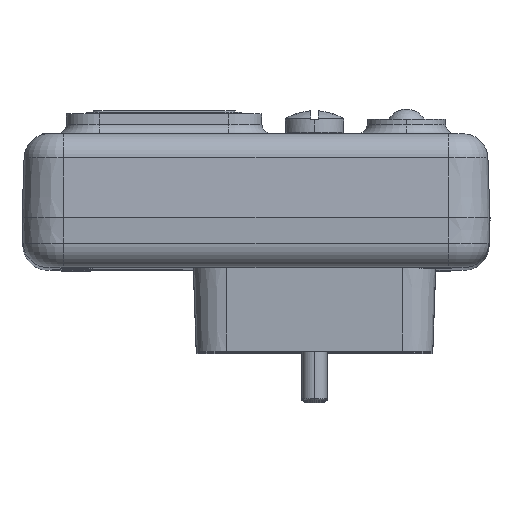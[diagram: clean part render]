
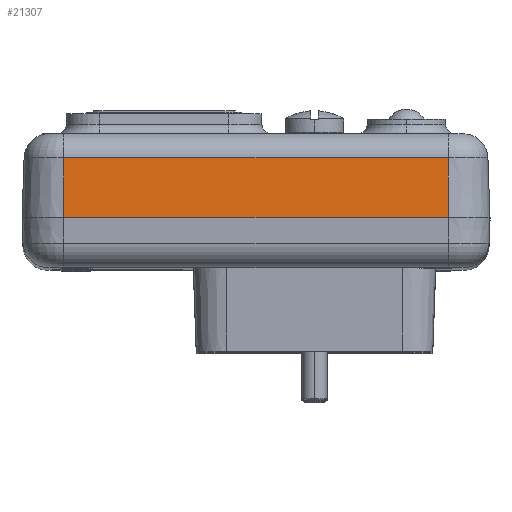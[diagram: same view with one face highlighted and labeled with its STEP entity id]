
A CAD part, top view. The second image highlights one B-rep face of the part: STEP entity #21307.
In plain terms, the highlighted planar face has unit normal (0, 0.035, 0.999).
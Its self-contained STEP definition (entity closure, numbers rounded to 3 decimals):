
#2586 = CARTESIAN_POINT ( 'NONE',  ( -23., 7.105, 99.702 ) ) ;
#3236 = ORIENTED_EDGE ( 'NONE', *, *, #19962, .T. ) ;
#3799 = VERTEX_POINT ( 'NONE', #2586 ) ;
#4176 = DIRECTION ( 'NONE',  ( 0., -0.999, 0.035 ) ) ;
#7566 = FACE_OUTER_BOUND ( 'NONE', #25926, .T. ) ;
#14116 = EDGE_CURVE ( 'NONE', #18675, #35558, #66770, .T. ) ;
#15468 = CARTESIAN_POINT ( 'NONE',  ( -23., 0., 99.95 ) ) ;
#15852 = CARTESIAN_POINT ( 'NONE',  ( -23., 7.105, 99.702 ) ) ;
#18675 = VERTEX_POINT ( 'NONE', #27973 ) ;
#19962 = EDGE_CURVE ( 'NONE', #51974, #35558, #24241, .T. ) ;
#21307 = ADVANCED_FACE ( 'NONE', ( #7566 ), #64100, .T. ) ;
#24241 = LINE ( 'NONE', #15468, #64674 ) ;
#25926 = EDGE_LOOP ( 'NONE', ( #67568, #38259, #61144, #3236 ) ) ;
#26905 = CARTESIAN_POINT ( 'NONE',  ( 23., 0., 99.95 ) ) ;
#27643 = DIRECTION ( 'NONE',  ( 0., -0.999, 0.035 ) ) ;
#27887 = CARTESIAN_POINT ( 'NONE',  ( -23., 0., 99.95 ) ) ;
#27973 = CARTESIAN_POINT ( 'NONE',  ( 23., 7.105, 99.702 ) ) ;
#30053 = LINE ( 'NONE', #27887, #31697 ) ;
#31077 = VECTOR ( 'NONE', #52805, 1000. ) ;
#31697 = VECTOR ( 'NONE', #60206, 1000. ) ;
#33179 = CARTESIAN_POINT ( 'NONE',  ( -23., 0., 99.95 ) ) ;
#35558 = VERTEX_POINT ( 'NONE', #26905 ) ;
#36708 = DIRECTION ( 'NONE',  ( 1., 0., 0. ) ) ;
#38259 = ORIENTED_EDGE ( 'NONE', *, *, #45067, .T. ) ;
#40362 = VECTOR ( 'NONE', #4176, 1000. ) ;
#45067 = EDGE_CURVE ( 'NONE', #18675, #3799, #48387, .T. ) ;
#47081 = AXIS2_PLACEMENT_3D ( 'NONE', #33179, #59269, #27643 ) ;
#47133 = CARTESIAN_POINT ( 'NONE',  ( -23., 0., 99.95 ) ) ;
#48387 = LINE ( 'NONE', #15852, #31077 ) ;
#51974 = VERTEX_POINT ( 'NONE', #47133 ) ;
#52805 = DIRECTION ( 'NONE',  ( -1., 0., 0. ) ) ;
#58829 = EDGE_CURVE ( 'NONE', #3799, #51974, #30053, .T. ) ;
#59269 = DIRECTION ( 'NONE',  ( 0., 0.035, 0.999 ) ) ;
#60206 = DIRECTION ( 'NONE',  ( 0., -0.999, 0.035 ) ) ;
#61144 = ORIENTED_EDGE ( 'NONE', *, *, #58829, .T. ) ;
#64100 = PLANE ( 'NONE',  #47081 ) ;
#64674 = VECTOR ( 'NONE', #36708, 1000. ) ;
#66770 = LINE ( 'NONE', #67185, #40362 ) ;
#67185 = CARTESIAN_POINT ( 'NONE',  ( 23., 0., 99.95 ) ) ;
#67568 = ORIENTED_EDGE ( 'NONE', *, *, #14116, .F. ) ;
